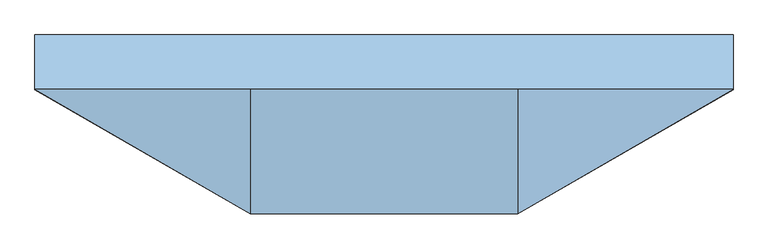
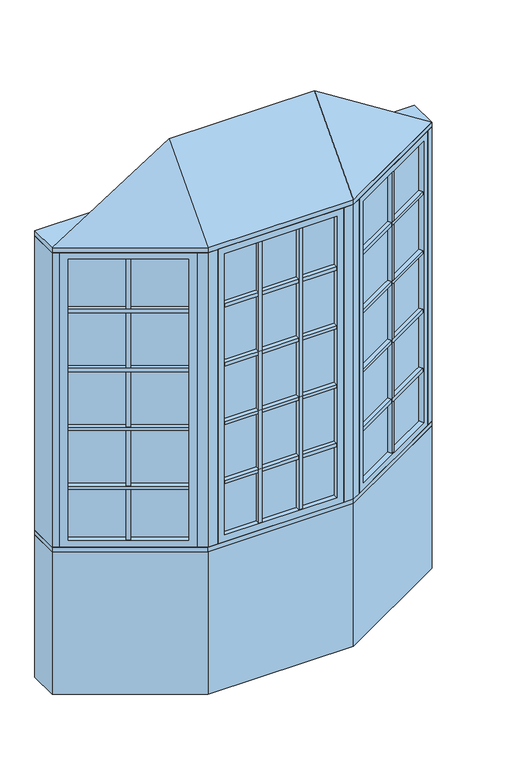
"""IFC4 building model written with IfcOpenShell, lengths in millimetres: window geometry, Pollard_Windows_Tudor Casement Bows and Bays : AML-BAY 30 AFR0616-08-600_GC."""

from ifc_helpers import new_model, si_unit, frame, origin, origin_with_axes, place, context, project, spatial, polyline, outline, extrude, faceted_brep, source, transform, mapped, element, save


def window_b6e0d081(model_context):
    return source(origin(), model_context, "Body", "SolidModel", [
        extrude(outline(polyline([(446.881999, -376.6297343), (435.881999, -357.5771754), (902.1135794, -88.3982469), (913.1135794, -107.4508058), (446.881999, -376.6297343)])), frame((0.0, 0.0, 1110.998), z_axis=(0.0, 0.0, 1.0), x_axis=(1.0, 0.0, 0.0)), (0.0, 0.0, 1.0), 18.0),
        extrude(outline(polyline([(433.341999, -353.1777664), (422.341999, -334.1252075), (888.5735794, -64.946279), (899.5735794, -83.9988379), (433.341999, -353.1777664)])), frame((0.0, 0.0, 1110.998), z_axis=(0.0, 0.0, 1.0), x_axis=(1.0, 0.0, 0.0)), (0.0, 0.0, 1.0), 18.0),
        extrude(outline(polyline([(446.881999, -376.6297343), (435.881999, -357.5771754), (902.1135794, -88.3982469), (913.1135794, -107.4508058), (446.881999, -376.6297343)])), frame((0.0, 0.0, 1430.998), z_axis=(0.0, 0.0, 1.0), x_axis=(1.0, 0.0, 0.0)), (0.0, 0.0, 1.0), 18.0),
        extrude(outline(polyline([(433.341999, -353.1777664), (422.341999, -334.1252075), (888.5735794, -64.946279), (899.5735794, -83.9988379), (433.341999, -353.1777664)])), frame((0.0, 0.0, 1430.998), z_axis=(0.0, 0.0, 1.0), x_axis=(1.0, 0.0, 0.0)), (0.0, 0.0, 1.0), 18.0),
        extrude(outline(polyline([(446.881999, -376.6297343), (435.881999, -357.5771754), (902.1135794, -88.3982469), (913.1135794, -107.4508058), (446.881999, -376.6297343)])), frame((0.0, 0.0, 1750.998), z_axis=(0.0, 0.0, 1.0), x_axis=(1.0, 0.0, 0.0)), (0.0, 0.0, 1.0), 18.0),
        extrude(outline(polyline([(433.341999, -353.1777664), (422.341999, -334.1252075), (888.5735794, -64.946279), (899.5735794, -83.9988379), (433.341999, -353.1777664)])), frame((0.0, 0.0, 1750.998), z_axis=(0.0, 0.0, 1.0), x_axis=(1.0, 0.0, 0.0)), (0.0, 0.0, 1.0), 18.0),
        extrude(outline(polyline([(446.881999, -376.6297343), (435.881999, -357.5771754), (902.1135794, -88.3982469), (913.1135794, -107.4508058), (446.881999, -376.6297343)])), frame((0.0, 0.0, 2070.998), z_axis=(0.0, 0.0, 1.0), x_axis=(1.0, 0.0, 0.0)), (0.0, 0.0, 1.0), 18.0),
        extrude(outline(polyline([(433.341999, -353.1777664), (422.341999, -334.1252075), (888.5735794, -64.946279), (899.5735794, -83.9988379), (433.341999, -353.1777664)])), frame((0.0, 0.0, 2070.998), z_axis=(0.0, 0.0, 1.0), x_axis=(1.0, 0.0, 0.0)), (0.0, 0.0, 1.0), 18.0),
        extrude(outline(polyline([(676.7920178, -218.4877112), (687.7920178, -237.5402701), (672.2035606, -246.5402701), (661.2035606, -227.4877112), (676.7920178, -218.4877112)])), frame((0.0, 0.0, 835.8628), z_axis=(0.0, 0.0, 1.0), x_axis=(1.0, 0.0, 0.0)), (0.0, 0.0, 1.0), 1528.2704),
        extrude(outline(polyline([(674.2520178, -214.0883021), (658.6635606, -223.0883021), (647.6635606, -204.0357432), (663.2520178, -195.0357432), (674.2520178, -214.0883021)])), frame((0.0, 0.0, 835.8628), z_axis=(0.0, 0.0, 1.0), x_axis=(1.0, 0.0, 0.0)), (0.0, 0.0, 1.0), 1528.2704),
        extrude(outline(polyline([(913.112102, -82.0482469), (424.8834764, -363.9271754), (422.3434764, -359.5277664), (910.572102, -77.6488379), (913.112102, -82.0482469)])), frame((0.0, 0.0, 823.1628), z_axis=(0.0, 0.0, 1.0), x_axis=(1.0, 0.0, 0.0)), (0.0, 0.0, 1.0), 1553.6704),
        faceted_brep([(902.1135794, -88.3982469, 835.8628), (914.8135794, -110.3952922, 835.8628), (914.8135794, -110.3952922, 2364.1332), (902.1135794, -88.3982469, 2364.1332), (910.572102, -77.6488379, 823.1628), (913.112102, -82.0482469, 823.1628), (913.112102, -82.0482469, 2376.8332), (910.572102, -77.6488379, 2376.8332), (886.8735794, -62.0017926, 835.8628), (899.5735794, -83.9988379, 835.8628), (899.5735794, -83.9988379, 2364.1332), (886.8735794, -62.0017926, 2364.1332), (945.8734073, -92.4628922, 799.998), (917.9334073, -44.0693926, 799.998), (917.9334073, -44.0693926, 2399.998), (945.8734073, -92.4628922, 2399.998), (448.581999, -379.5742207, 2364.1332), (435.881999, -357.5771754, 2364.1332), (424.8834764, -363.9271754, 2376.8332), (422.3434764, -359.5277664, 2376.8332), (433.341999, -353.1777664, 2364.1332), (420.641999, -331.1807211, 2364.1332), (389.5821711, -349.1131211, 2399.998), (417.5221711, -397.5066207, 2399.998), (448.581999, -379.5742207, 835.8628), (435.881999, -357.5771754, 835.8628), (424.8834764, -363.9271754, 823.1628), (422.3434764, -359.5277664, 823.1628), (433.341999, -353.1777664, 835.8628), (420.641999, -331.1807211, 835.8628), (389.5821711, -349.1131211, 799.998), (417.5221711, -397.5066207, 799.998)], [[[0, 1, 2, 3]], [[4, 5, 6, 7]], [[8, 9, 10, 11]], [[12, 13, 14, 15]], [[3, 2, 16, 17]], [[7, 6, 18, 19]], [[11, 10, 20, 21]], [[15, 14, 22, 23]], [[17, 16, 24, 25]], [[19, 18, 26, 27]], [[21, 20, 28, 29]], [[23, 22, 30, 31]], [[25, 24, 1, 0]], [[5, 26, 18, 6], [3, 17, 25, 0]], [[27, 26, 5, 4]], [[7, 19, 27, 4], [9, 28, 20, 10]], [[29, 28, 9, 8]], [[13, 30, 22, 14], [11, 21, 29, 8]], [[31, 30, 13, 12]], [[15, 23, 31, 12], [1, 24, 16, 2]]]),
        extrude(outline(polyline([(112.352167, -397.1066207), (112.352167, -419.1066207), (94.352167, -419.1066207), (94.352167, -397.1066207), (112.352167, -397.1066207)])), frame((0.0, 0.0, 835.8628), z_axis=(0.0, 0.0, 1.0), x_axis=(1.0, 0.0, 0.0)), (0.0, 0.0, 1.0), 1528.2704),
        extrude(outline(polyline([(112.352167, -392.0266207), (94.352167, -392.0266207), (94.352167, -370.0266207), (112.352167, -370.0266207), (112.352167, -392.0266207)])), frame((0.0, 0.0, 835.8628), z_axis=(0.0, 0.0, 1.0), x_axis=(1.0, 0.0, 0.0)), (0.0, 0.0, 1.0), 1528.2704),
        extrude(outline(polyline([(-94.352167, -397.1066207), (-94.352167, -419.1066207), (-112.352167, -419.1066207), (-112.352167, -397.1066207), (-94.352167, -397.1066207)])), frame((0.0, 0.0, 835.8628), z_axis=(0.0, 0.0, 1.0), x_axis=(1.0, 0.0, 0.0)), (0.0, 0.0, 1.0), 1528.2704),
        extrude(outline(polyline([(-94.352167, -392.0266207), (-112.352167, -392.0266207), (-112.352167, -370.0266207), (-94.352167, -370.0266207), (-94.352167, -392.0266207)])), frame((0.0, 0.0, 835.8628), z_axis=(0.0, 0.0, 1.0), x_axis=(1.0, 0.0, 0.0)), (0.0, 0.0, 1.0), 1528.2704),
        extrude(outline(polyline([(-288.3561009, -419.1066207), (-288.3561009, -397.1066207), (288.3561009, -397.1066207), (288.3561009, -419.1066207), (-288.3561009, -419.1066207)])), frame((0.0, 0.0, 1110.998), z_axis=(0.0, 0.0, 1.0), x_axis=(1.0, 0.0, 0.0)), (0.0, 0.0, 1.0), 18.0),
        extrude(outline(polyline([(-288.3561009, -392.0266207), (-288.3561009, -370.0266207), (288.3561009, -370.0266207), (288.3561009, -392.0266207), (-288.3561009, -392.0266207)])), frame((0.0, 0.0, 1110.998), z_axis=(0.0, 0.0, 1.0), x_axis=(1.0, 0.0, 0.0)), (0.0, 0.0, 1.0), 18.0),
        extrude(outline(polyline([(-288.3561009, -419.1066207), (-288.3561009, -397.1066207), (288.3561009, -397.1066207), (288.3561009, -419.1066207), (-288.3561009, -419.1066207)])), frame((0.0, 0.0, 1430.998), z_axis=(0.0, 0.0, 1.0), x_axis=(1.0, 0.0, 0.0)), (0.0, 0.0, 1.0), 18.0),
        extrude(outline(polyline([(-288.3561009, -392.0266207), (-288.3561009, -370.0266207), (288.3561009, -370.0266207), (288.3561009, -392.0266207), (-288.3561009, -392.0266207)])), frame((0.0, 0.0, 1430.998), z_axis=(0.0, 0.0, 1.0), x_axis=(1.0, 0.0, 0.0)), (0.0, 0.0, 1.0), 18.0),
        extrude(outline(polyline([(-288.3561009, -419.1066207), (-288.3561009, -397.1066207), (288.3561009, -397.1066207), (288.3561009, -419.1066207), (-288.3561009, -419.1066207)])), frame((0.0, 0.0, 1750.998), z_axis=(0.0, 0.0, 1.0), x_axis=(1.0, 0.0, 0.0)), (0.0, 0.0, 1.0), 18.0),
        extrude(outline(polyline([(-288.3561009, -392.0266207), (-288.3561009, -370.0266207), (288.3561009, -370.0266207), (288.3561009, -392.0266207), (-288.3561009, -392.0266207)])), frame((0.0, 0.0, 1750.998), z_axis=(0.0, 0.0, 1.0), x_axis=(1.0, 0.0, 0.0)), (0.0, 0.0, 1.0), 18.0),
        extrude(outline(polyline([(-913.1135794, -107.4508058), (-902.1135794, -88.3982469), (-435.881999, -357.5771754), (-446.881999, -376.6297343), (-913.1135794, -107.4508058)])), frame((0.0, 0.0, 1110.998), z_axis=(0.0, 0.0, 1.0), x_axis=(1.0, 0.0, 0.0)), (0.0, 0.0, 1.0), 18.0),
        extrude(outline(polyline([(-899.5735794, -83.9988379), (-888.5735794, -64.946279), (-422.341999, -334.1252075), (-433.341999, -353.1777664), (-899.5735794, -83.9988379)])), frame((0.0, 0.0, 1110.998), z_axis=(0.0, 0.0, 1.0), x_axis=(1.0, 0.0, 0.0)), (0.0, 0.0, 1.0), 18.0),
        extrude(outline(polyline([(-913.1135794, -107.4508058), (-902.1135794, -88.3982469), (-435.881999, -357.5771754), (-446.881999, -376.6297343), (-913.1135794, -107.4508058)])), frame((0.0, 0.0, 1430.998), z_axis=(0.0, 0.0, 1.0), x_axis=(1.0, 0.0, 0.0)), (0.0, 0.0, 1.0), 18.0),
        extrude(outline(polyline([(-899.5735794, -83.9988379), (-888.5735794, -64.946279), (-422.341999, -334.1252075), (-433.341999, -353.1777664), (-899.5735794, -83.9988379)])), frame((0.0, 0.0, 1430.998), z_axis=(0.0, 0.0, 1.0), x_axis=(1.0, 0.0, 0.0)), (0.0, 0.0, 1.0), 18.0),
        extrude(outline(polyline([(-913.1135794, -107.4508058), (-902.1135794, -88.3982469), (-435.881999, -357.5771754), (-446.881999, -376.6297343), (-913.1135794, -107.4508058)])), frame((0.0, 0.0, 1750.998), z_axis=(0.0, 0.0, 1.0), x_axis=(1.0, 0.0, 0.0)), (0.0, 0.0, 1.0), 18.0),
        extrude(outline(polyline([(-899.5735794, -83.9988379), (-888.5735794, -64.946279), (-422.341999, -334.1252075), (-433.341999, -353.1777664), (-899.5735794, -83.9988379)])), frame((0.0, 0.0, 1750.998), z_axis=(0.0, 0.0, 1.0), x_axis=(1.0, 0.0, 0.0)), (0.0, 0.0, 1.0), 18.0),
        extrude(outline(polyline([(-913.1135794, -107.4508058), (-902.1135794, -88.3982469), (-435.881999, -357.5771754), (-446.881999, -376.6297343), (-913.1135794, -107.4508058)])), frame((0.0, 0.0, 2070.998), z_axis=(0.0, 0.0, 1.0), x_axis=(1.0, 0.0, 0.0)), (0.0, 0.0, 1.0), 18.0),
        extrude(outline(polyline([(-899.5735794, -83.9988379), (-888.5735794, -64.946279), (-422.341999, -334.1252075), (-433.341999, -353.1777664), (-899.5735794, -83.9988379)])), frame((0.0, 0.0, 2070.998), z_axis=(0.0, 0.0, 1.0), x_axis=(1.0, 0.0, 0.0)), (0.0, 0.0, 1.0), 18.0),
        extrude(outline(polyline([(-288.3561009, -419.1066207), (-288.3561009, -397.1066207), (288.3561009, -397.1066207), (288.3561009, -419.1066207), (-288.3561009, -419.1066207)])), frame((0.0, 0.0, 2070.998), z_axis=(0.0, 0.0, 1.0), x_axis=(1.0, 0.0, 0.0)), (0.0, 0.0, 1.0), 18.0),
        extrude(outline(polyline([(-288.3561009, -392.0266207), (-288.3561009, -370.0266207), (288.3561009, -370.0266207), (288.3561009, -392.0266207), (-288.3561009, -392.0266207)])), frame((0.0, 0.0, 2070.998), z_axis=(0.0, 0.0, 1.0), x_axis=(1.0, 0.0, 0.0)), (0.0, 0.0, 1.0), 18.0),
        extrude(outline(polyline([(-661.2035606, -227.4877112), (-672.2035606, -246.5402701), (-687.7920178, -237.5402701), (-676.7920178, -218.4877112), (-661.2035606, -227.4877112)])), frame((0.0, 0.0, 835.8628), z_axis=(0.0, 0.0, 1.0), x_axis=(1.0, 0.0, 0.0)), (0.0, 0.0, 1.0), 1528.2704),
        extrude(outline(polyline([(-658.6635606, -223.0883021), (-674.2520178, -214.0883021), (-663.2520178, -195.0357432), (-647.6635606, -204.0357432), (-658.6635606, -223.0883021)])), frame((0.0, 0.0, 835.8628), z_axis=(0.0, 0.0, 1.0), x_axis=(1.0, 0.0, 0.0)), (0.0, 0.0, 1.0), 1528.2704),
        extrude(outline(polyline([(-424.8834764, -363.9271754), (-913.112102, -82.0482469), (-910.572102, -77.6488379), (-422.3434764, -359.5277664), (-424.8834764, -363.9271754)])), frame((0.0, 0.0, 823.1628), z_axis=(0.0, 0.0, 1.0), x_axis=(1.0, 0.0, 0.0)), (0.0, 0.0, 1.0), 1553.6704),
        faceted_brep([(-433.341999, -353.1777664, 2364.1332), (-420.641999, -331.1807211, 2364.1332), (-420.641999, -331.1807211, 835.8628), (-433.341999, -353.1777664, 835.8628), (-424.8834764, -363.9271754, 2376.8332), (-422.3434764, -359.5277664, 2376.8332), (-422.3434764, -359.5277664, 823.1628), (-424.8834764, -363.9271754, 823.1628), (-448.581999, -379.5742207, 2364.1332), (-435.881999, -357.5771754, 2364.1332), (-435.881999, -357.5771754, 835.8628), (-448.581999, -379.5742207, 835.8628), (-389.5821711, -349.1131211, 2399.998), (-417.5221711, -397.5066207, 2399.998), (-417.5221711, -397.5066207, 799.998), (-389.5821711, -349.1131211, 799.998), (-886.8735794, -62.0017926, 835.8628), (-899.5735794, -83.9988379, 835.8628), (-910.572102, -77.6488379, 823.1628), (-913.112102, -82.0482469, 823.1628), (-902.1135794, -88.3982469, 835.8628), (-914.8135794, -110.3952922, 835.8628), (-945.8734073, -92.4628922, 799.998), (-917.9334073, -44.0693926, 799.998), (-886.8735794, -62.0017926, 2364.1332), (-899.5735794, -83.9988379, 2364.1332), (-910.572102, -77.6488379, 2376.8332), (-913.112102, -82.0482469, 2376.8332), (-902.1135794, -88.3982469, 2364.1332), (-914.8135794, -110.3952922, 2364.1332), (-945.8734073, -92.4628922, 2399.998), (-917.9334073, -44.0693926, 2399.998)], [[[0, 1, 2, 3]], [[4, 5, 6, 7]], [[8, 9, 10, 11]], [[12, 13, 14, 15]], [[3, 2, 16, 17]], [[7, 6, 18, 19]], [[11, 10, 20, 21]], [[15, 14, 22, 23]], [[17, 16, 24, 25]], [[19, 18, 26, 27]], [[21, 20, 28, 29]], [[23, 22, 30, 31]], [[15, 23, 31, 12], [1, 24, 16, 2]], [[25, 24, 1, 0]], [[5, 26, 18, 6], [3, 17, 25, 0]], [[27, 26, 5, 4]], [[7, 19, 27, 4], [9, 28, 20, 10]], [[29, 28, 9, 8]], [[13, 30, 22, 14], [11, 21, 29, 8]], [[31, 30, 13, 12]]]),
        extrude(outline(polyline([(301.0561009, -397.1066207), (-301.0561009, -397.1066207), (-301.0561009, -392.0266207), (301.0561009, -392.0266207), (301.0561009, -397.1066207)])), frame((0.0, 0.0, 823.1628), z_axis=(0.0, 0.0, 1.0), x_axis=(1.0, 0.0, 0.0)), (0.0, 0.0, 1.0), 1553.6704),
        faceted_brep([(288.3561009, -397.1066207, 835.8628), (288.3561009, -422.5066207, 835.8628), (288.3561009, -422.5066207, 2364.1332), (288.3561009, -397.1066207, 2364.1332), (301.0561009, -392.0266207, 823.1628), (301.0561009, -397.1066207, 823.1628), (301.0561009, -397.1066207, 2376.8332), (301.0561009, -392.0266207, 2376.8332), (288.3561009, -366.6266207, 835.8628), (288.3561009, -392.0266207, 835.8628), (288.3561009, -392.0266207, 2364.1332), (288.3561009, -366.6266207, 2364.1332), (324.2209009, -422.5066207, 799.998), (324.2209009, -366.6266207, 799.998), (324.2209009, -366.6266207, 2399.998), (324.2209009, -422.5066207, 2399.998), (-288.3561009, -422.5066207, 2364.1332), (-288.3561009, -397.1066207, 2364.1332), (-301.0561009, -397.1066207, 2376.8332), (-301.0561009, -392.0266207, 2376.8332), (-288.3561009, -392.0266207, 2364.1332), (-288.3561009, -366.6266207, 2364.1332), (-324.2209009, -366.6266207, 2399.998), (-324.2209009, -422.5066207, 2399.998), (-288.3561009, -422.5066207, 835.8628), (-288.3561009, -397.1066207, 835.8628), (-301.0561009, -397.1066207, 823.1628), (-301.0561009, -392.0266207, 823.1628), (-288.3561009, -392.0266207, 835.8628), (-288.3561009, -366.6266207, 835.8628), (-324.2209009, -366.6266207, 799.998), (-324.2209009, -422.5066207, 799.998)], [[[0, 1, 2, 3]], [[4, 5, 6, 7]], [[8, 9, 10, 11]], [[12, 13, 14, 15]], [[3, 2, 16, 17]], [[7, 6, 18, 19]], [[11, 10, 20, 21]], [[15, 14, 22, 23]], [[17, 16, 24, 25]], [[19, 18, 26, 27]], [[21, 20, 28, 29]], [[23, 22, 30, 31]], [[15, 23, 31, 12], [1, 24, 16, 2]], [[25, 24, 1, 0]], [[5, 26, 18, 6], [3, 17, 25, 0]], [[27, 26, 5, 4]], [[7, 19, 27, 4], [9, 28, 20, 10]], [[29, 28, 9, 8]], [[13, 30, 22, 14], [11, 21, 29, 8]], [[31, 30, 13, 12]]]),
        faceted_brep([(976.5, -74.7806207, 2425.398), (374.2209009, -422.5066207, 2425.398), (-374.2209009, -422.5066207, 2425.398), (-976.5, -74.7806207, 2425.398), (-374.2209009, -74.7806207, 2806.398), (374.2209009, -74.7806207, 2806.398)], [[[0, 1, 2, 3]], [[3, 2, 4]], [[2, 1, 5, 4]], [[1, 0, 5]], [[0, 3, 4, 5]]]),
        extrude(outline(polyline([(-976.5, 77.6193793), (976.5, 77.6193793), (976.5, -74.7806207), (374.2209009, -422.5066207), (-374.2209009, -422.5066207), (-976.5, -74.7806207), (-976.5, 77.6193793)])), frame((0.0, 0.0, 2399.998), z_axis=(0.0, 0.0, 1.0), x_axis=(1.0, 0.0, 0.0)), (0.0, 0.0, 1.0), 25.4),
        extrude(outline(polyline([(-976.5, -74.7806207), (-976.5, 77.6193793), (-935.6645431, 77.6193793), (-935.6645431, -74.7806207), (-945.8734073, -92.4628922), (-976.5, -74.7806207)])), frame((0.0, 0.0, 799.998), z_axis=(0.0, 0.0, 1.0), x_axis=(1.0, 0.0, 0.0)), (0.0, 0.0, 1.0), 1600.0),
        extrude(outline(polyline([(976.5, 77.6193793), (976.5, -74.7806207), (945.8734073, -92.4628922), (935.6645431, -74.7806207), (935.6645431, 77.6193793), (976.5, 77.6193793)])), frame((0.0, 0.0, 799.998), z_axis=(0.0, 0.0, 1.0), x_axis=(1.0, 0.0, 0.0)), (0.0, 0.0, 1.0), 1600.0),
        extrude(outline(polyline([(374.2209009, -422.5066207), (324.2209009, -422.5066207), (324.2209009, -372.5066207), (360.8234413, -372.5066207), (392.5221711, -354.2053505), (417.5221711, -397.5066207), (374.2209009, -422.5066207)])), frame((0.0, 0.0, 799.998), z_axis=(0.0, 0.0, 1.0), x_axis=(1.0, 0.0, 0.0)), (0.0, 0.0, 1.0), 1600.0),
        extrude(outline(polyline([(-374.2209009, -422.5066207), (-417.5221711, -397.5066207), (-392.5221711, -354.2053505), (-360.8234413, -372.5066207), (-324.2209009, -372.5066207), (-324.2209009, -422.5066207), (-374.2209009, -422.5066207)])), frame((0.0, 0.0, 799.998), z_axis=(0.0, 0.0, 1.0), x_axis=(1.0, 0.0, 0.0)), (0.0, 0.0, 1.0), 1600.0),
        extrude(outline(polyline([(-374.2209009, -422.5066207), (-976.5, -74.7806207), (-976.5, 77.6193793), (-935.6645431, 77.6193793), (-333.385444, -270.1066207), (333.385444, -270.1066207), (935.6645431, 77.6193793), (976.5, 77.6193793), (976.5, -74.7806207), (374.2209009, -422.5066207), (-374.2209009, -422.5066207)])), frame((0.0, 0.0, 774.598), z_axis=(0.0, 0.0, 1.0), x_axis=(1.0, 0.0, 0.0)), (0.0, 0.0, 1.0), 25.4),
        extrude(outline(polyline([(-976.5, -74.7806207), (-976.5, 77.6193793), (-935.6645431, 77.6193793), (-333.385444, -270.1066207), (333.385444, -270.1066207), (935.6645431, 77.6193793), (976.5, 77.6193793), (976.5, -74.7806207), (374.2209009, -422.5066207), (-374.2209009, -422.5066207), (-976.5, -74.7806207)])), origin_with_axes(), (0.0, 0.0, 1.0), 774.598),
    ])


if __name__ == "__main__":
    model = new_model("IFC4")
    model_context = context("Model", 3, world=origin())
    ifc_project = project(units=[si_unit("LENGTHUNIT", "METRE", prefix="MILLI")], contexts=[model_context])
    site = spatial("IfcSite", under=ifc_project)
    building = spatial("IfcBuilding", under=site)
    placement = place(None, origin())
    window_shape = window_b6e0d081(model_context)
    element("IfcWindow", 1, ObjectType="Pollard_Windows_Tudor Casement Bows and Bays : AML-BAY 30 AFR0616-08-600_GC", at=placement, inside=building, context=model_context, shape_type="MappedRepresentation", body=[
        mapped(window_shape, transform((0.0, 0.0, 0.0), x_axis=(1.0, 0.0, 0.0), y_axis=(0.0, 1.0, 0.0), z_axis=(0.0, 0.0, 1.0))),
    ])
    save(model, "model.ifc")
